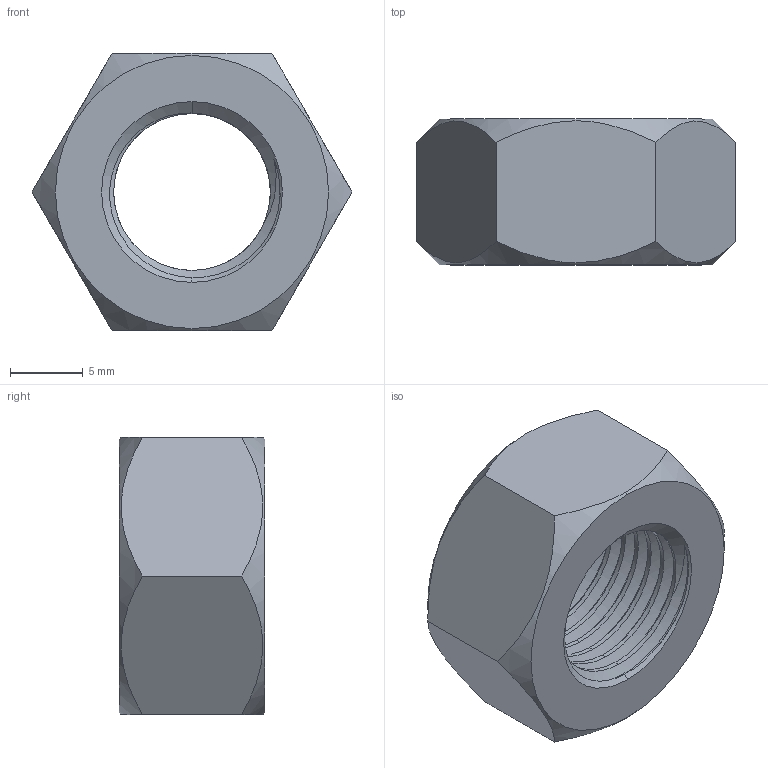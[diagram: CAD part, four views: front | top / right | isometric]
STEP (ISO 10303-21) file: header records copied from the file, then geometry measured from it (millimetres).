
FILE_DESCRIPTION (( 'STEP AP203' ), '1' );
FILE_NAME ('TANRM-304-M12x1.25.STEP', '2026-08-21T14:20:08', ( '' ), ( '' ), 'SwSTEP 2.0', 'SolidWorks 2020', '' );
FILE_SCHEMA (( 'CONFIG_CONTROL_DESIGN' ));
Length unit declared in the file: millimetre
Products named in the file (1): TANRM-304-M12x1.25
Bounding box: 21.94 x 10 x 19 mm (x, y, z)
Volume: 2072.1 mm3; surface area: 1570.3 mm2
Topology: 1 solids, 1 shells, 35 faces, 98 edges, 65 vertices
Faces by surface type: cylinder 15, cone 9, plane 8, bspline 3
Entity records: 2970 total; most frequent: CARTESIAN_POINT 2132, ORIENTED_EDGE 196, DIRECTION 117, EDGE_CURVE 98, VERTEX_POINT 65, AXIS2_PLACEMENT_3D 44, EDGE_LOOP 37, FACE_OUTER_BOUND 35
